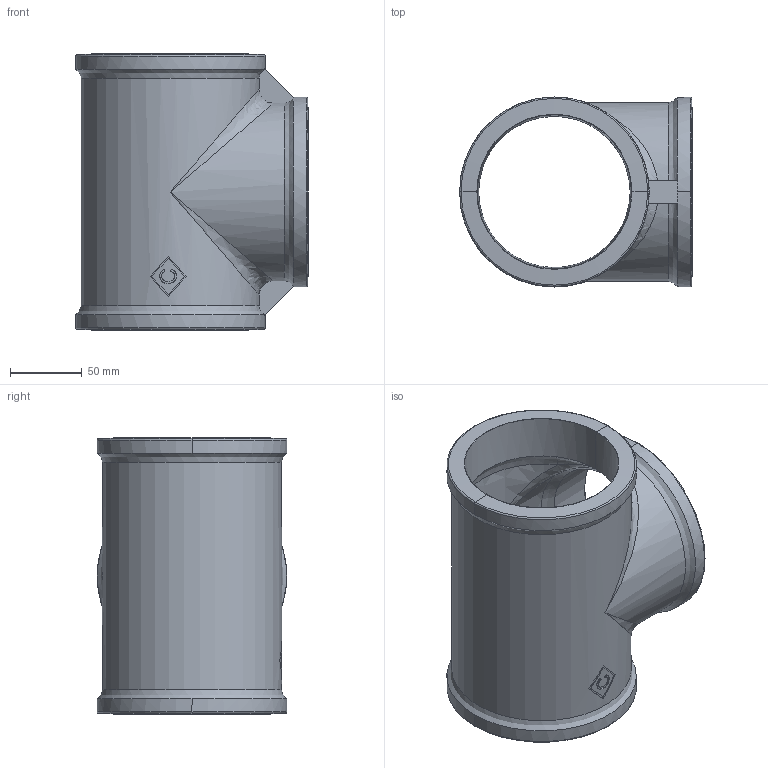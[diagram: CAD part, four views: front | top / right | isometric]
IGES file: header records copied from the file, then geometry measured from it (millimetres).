
Global section: file name: No Iges File Name specified; native system: AutoDesk Inventor R12.0; preprocessor: AutoDesk Inventor Iges Exporter R12.0; date: 20090916.163039; units: millimetre
Bounding box: 161.9 x 131.8 x 192 mm (x, y, z)
Volume: 648792.9 mm3; surface area: 171963.1 mm2
Topology: 1 solids, 1 shells, 78 faces, 222 edges, 140 vertices
Faces by surface type: bspline 26, plane 19, cylinder 12, revolution 9, cone 6, torus 6
